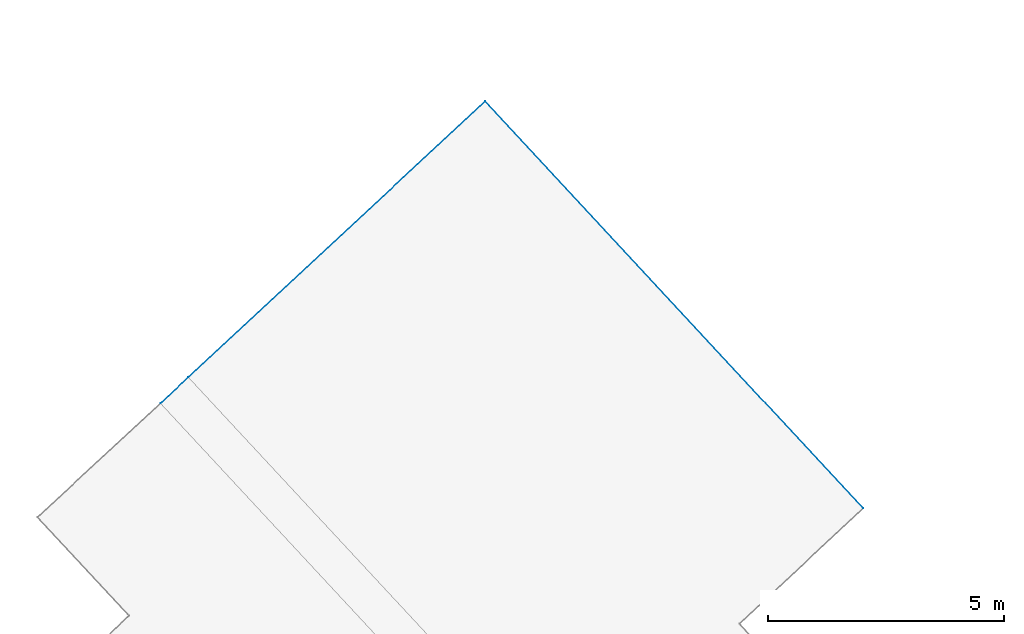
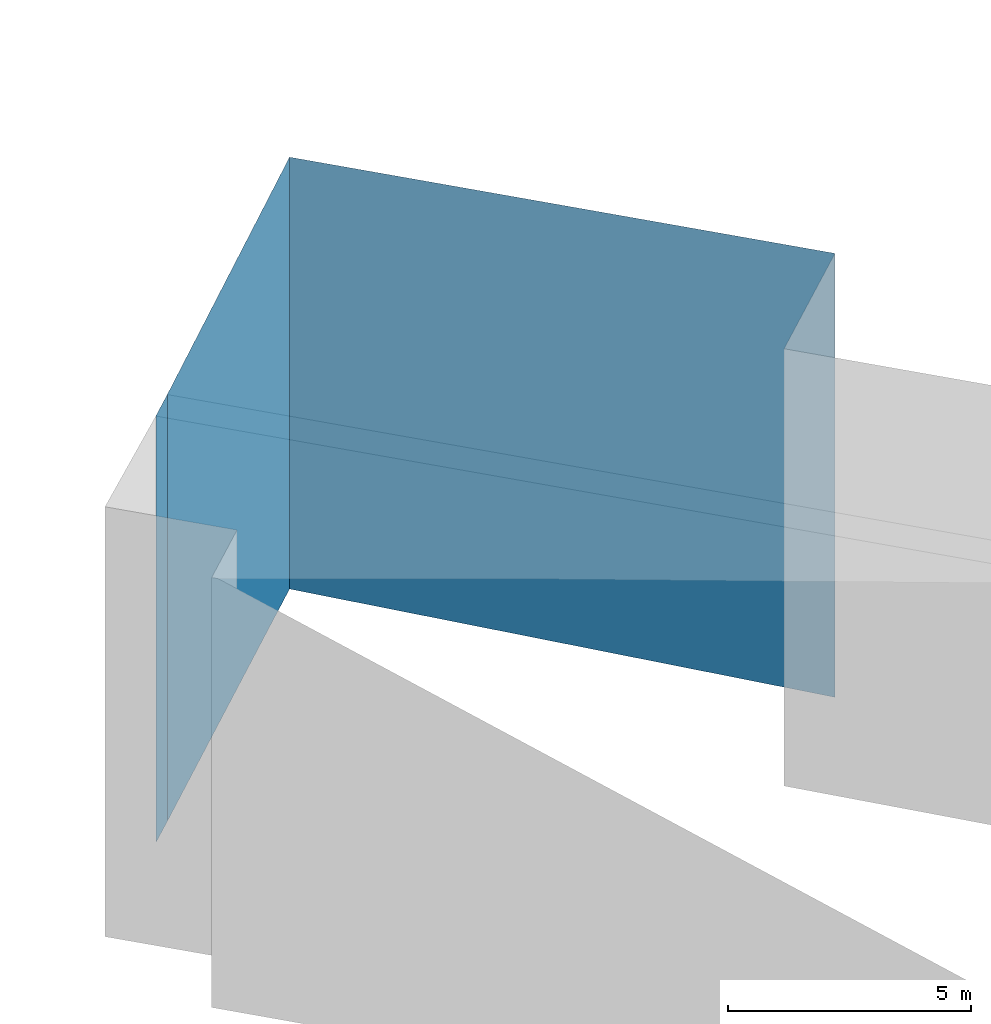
# Not in any storey, part 60 of 136: 3 walls.
"""IFC4 building model written with IfcOpenShell, lengths in metres."""

from ifc_helpers import new_model, entity, si_unit, converted_unit, origin, place, context, subcontext, project, spatial, face_set, surface_model, element, save


model = new_model("IFC4")

# Units and contexts
model_context = context("Model", 3, precision=1e-05, world=origin())
body_context = subcontext(model_context, "Body", "Model", "MODEL_VIEW")
ifc_project = project(units=[converted_unit("PLANEANGLEUNIT", "DEGREE", entity("IfcRatioMeasure", 0.0174532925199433), si_unit("PLANEANGLEUNIT", "RADIAN"), dimensions=[0, 0, 0, 0, 0, 0, 0]), si_unit("AREAUNIT", "SQUARE_METRE"), si_unit("LENGTHUNIT", "METRE")], contexts=[model_context])

# Site, building
site_placement = place(None, origin())
site = spatial("IfcSite", under=ifc_project, at=site_placement, Name="_site")
building_placement = place(site_placement, origin())
building = spatial("IfcBuilding", under=site, at=building_placement, Name="_building")

# Walls
wall_1_placement = place(building_placement, origin())
element("IfcWall", 1, at=wall_1_placement, inside=building, Name="Wall", PredefinedType="NOTDEFINED", context=body_context, shape_type="SurfaceModel", body=[
    surface_model("IfcFaceBasedSurfaceModel", [(145.74, 63.12, 48.95), (153.74, 54.51, 48.95), (153.74, 54.51, 37.788), (145.74, 63.12, 38.091)], [face_set([[[0, 1, 2, 3]]])]),
])
wall_2_placement = place(building_placement, origin())
element("IfcWall", 2, at=wall_2_placement, inside=building, Name="Wall", PredefinedType="NOTDEFINED", context=body_context, shape_type="SurfaceModel", body=[
    surface_model("IfcFaceBasedSurfaceModel", [(139.46, 57.28, 48.72), (145.74, 63.12, 48.95), (145.74, 63.12, 38.091), (139.46, 57.28, 37.983)], [face_set([[[0, 1, 2, 3]]])]),
])
wall_3_placement = place(building_placement, origin())
element("IfcWall", 3, at=wall_3_placement, inside=building, Name="Wall", PredefinedType="NOTDEFINED", context=body_context, shape_type="SurfaceModel", body=[
    surface_model("IfcFaceBasedSurfaceModel", [(138.87, 56.73, 48.72), (139.46, 57.28, 48.72), (139.46, 57.28, 37.983), (138.87, 56.73, 37.988)], [face_set([[[0, 1, 2, 3]]])]),
])

save(model, "model.ifc")
